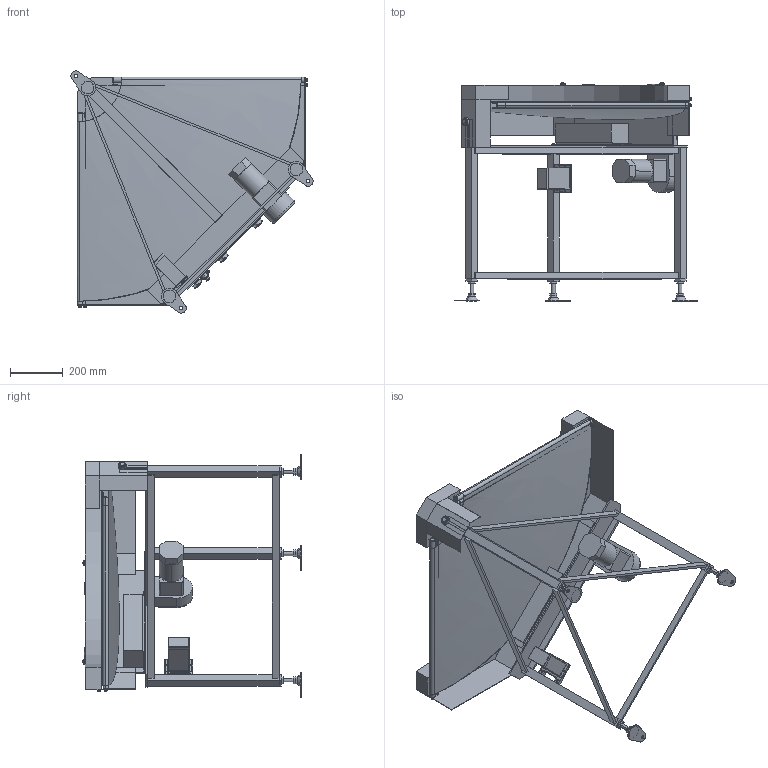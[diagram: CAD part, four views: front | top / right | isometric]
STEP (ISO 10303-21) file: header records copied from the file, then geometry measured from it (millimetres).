
FILE_DESCRIPTION (( 'STEP AP214' ), '1' );
FILE_NAME ('GBC90-UD600-R.STEP', '2024-01-18T00:50:43', ( '' ), ( '' ), 'SwSTEP 2.0', 'SolidWorks 2017', '' );
FILE_SCHEMA (( 'AUTOMOTIVE_DESIGN' ));
Length unit declared in the file: millimetre
Products named in the file (1): GBC90-UD600-R
Bounding box: 917.51 x 827.92 x 917.51 mm (x, y, z)
Volume: 22857176.4 mm3; surface area: 5714233.9 mm2
Topology: 62 solids, 62 shells, 1153 faces, 2652 edges, 1680 vertices
Faces by surface type: plane 615, cylinder 308, cone 123, bspline 77, torus 20, sphere 10
Entity records: 40917 total; most frequent: CARTESIAN_POINT 14406, ORIENTED_EDGE 5272, DIRECTION 5242, EDGE_CURVE 2636, AXIS2_PLACEMENT_3D 1881, VERTEX_POINT 1680, VECTOR 1480, LINE 1480
